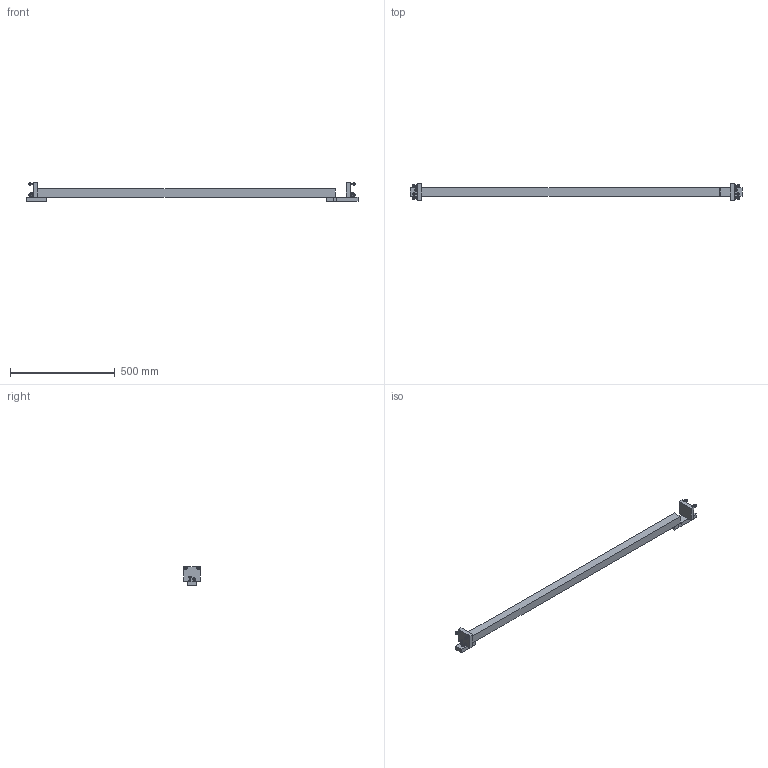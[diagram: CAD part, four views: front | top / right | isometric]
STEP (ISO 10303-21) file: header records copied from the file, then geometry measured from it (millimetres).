
FILE_DESCRIPTION(/* description */ (''),/* implementation_level */ '2;1');
FILE_NAME(/* name */ 'y-cart',/* time_stamp */ '2013-11-26T23:56:18+01:00',/* author */ (''),/* organization */ (''),/* preprocessor_version */ 'ST-DEVELOPER v14',/* originating_system */ '',/* authorisation */ '');
FILE_SCHEMA (('AUTOMOTIVE_DESIGN'));
Length unit declared in the file: millimetre
Products named in the file (9): Document; nut tslot, post, M5; tslot nut, pre, M4; ball bearing roller 4x13x5mm; screw DIN912-like, adhesive, M4x25; screw DIN912-like, adhesive, M5x25; nut DIN985-like, lock, M4; washer DIN9021-like, form G, M4; screw DIN912-like, M5x20
Assembly tree (30 placements, depth 2):
  Document
    nut tslot, post, M5  x2
    tslot nut, pre, M4  x4
    ball bearing roller 4x13x5mm  x4
    screw DIN912-like, adhesive, M4x25  x4
    screw DIN912-like, adhesive, M5x25  x2
    nut DIN985-like, lock, M4  x8
    washer DIN9021-like, form G, M4  x4
    screw DIN912-like, M5x20  x2
Bounding box: 1582 x 80 x 90 mm (x, y, z)
Volume: 2701207.8 mm3; surface area: 322238.2 mm2
Topology: 57 solids, 105 shells, 1586 faces, 3788 edges, 2368 vertices
Faces by surface type: plane 806, bspline 780
Entity records: 63033 total; most frequent: CARTESIAN_POINT 32090, B_SPLINE_CURVE_WITH_KNOTS 4971, ORIENTED_EDGE 4608, PCURVE 4608, DEFINITIONAL_REPRESENTATION 4608, SURFACE_CURVE 2354, EDGE_CURVE 2354, VERTEX_POINT 1489
